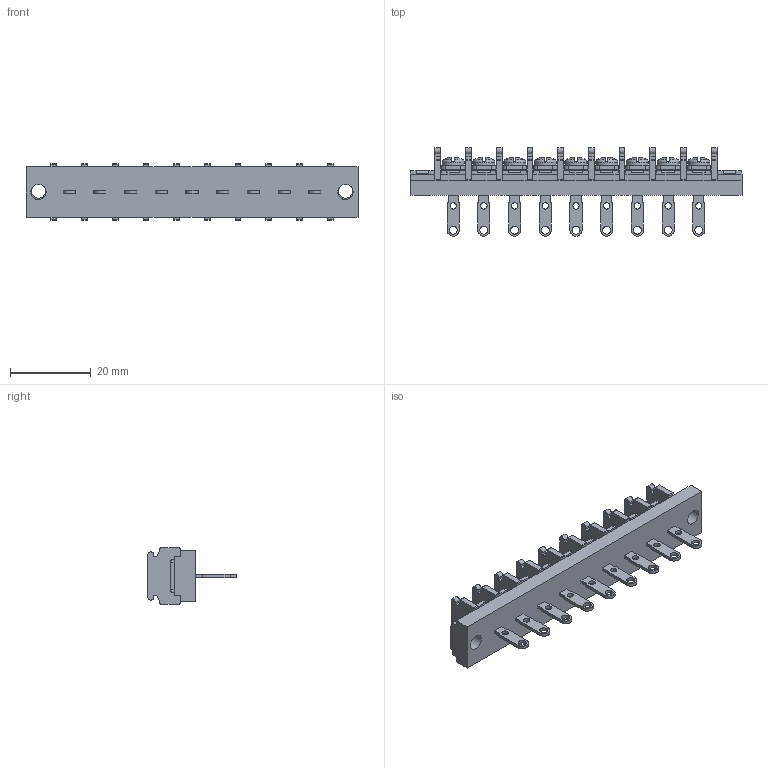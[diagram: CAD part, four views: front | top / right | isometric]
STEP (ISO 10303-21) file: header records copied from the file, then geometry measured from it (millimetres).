
FILE_DESCRIPTION(/* description */ ('Alibre Inc.'),/* implementation_level */ '2;1');
FILE_NAME(/* name */ 'export0',/* time_stamp */ '2015-10-26T16:40:56+09:00',/* author */ (''),/* organization */ (''),/* preprocessor_version */ 'ST-DEVELOPER v14',/* originating_system */ 'Alibre',/* authorisation */ '');
FILE_SCHEMA (('CONFIG_CONTROL_DESIGN'));
Length unit declared in the file: centimetre
Products named in the file (1): ID_1
Bounding box: 82.4 x 21.9 x 14 mm (x, y, z)
Volume: 7501.3 mm3; surface area: 7469.4 mm2
Topology: 1 solids, 17 shells, 1514 faces, 4132 edges, 2710 vertices
Faces by surface type: plane 1171, cylinder 167, bspline 104, cone 36, torus 18, sphere 18
Full cylindrical faces by diameter (mm): 1.57 x9, 2 x9, 3 x9, 3.5 x2, 3.8 x2, 5.5 x9
Entity records: 45217 total; most frequent: CARTESIAN_POINT 9500, ORIENTED_EDGE 8104, DIRECTION 5735, EDGE_CURVE 4052, VECTOR 2948, LINE 2948, VERTEX_POINT 2688, AXIS2_PLACEMENT_3D 1932
